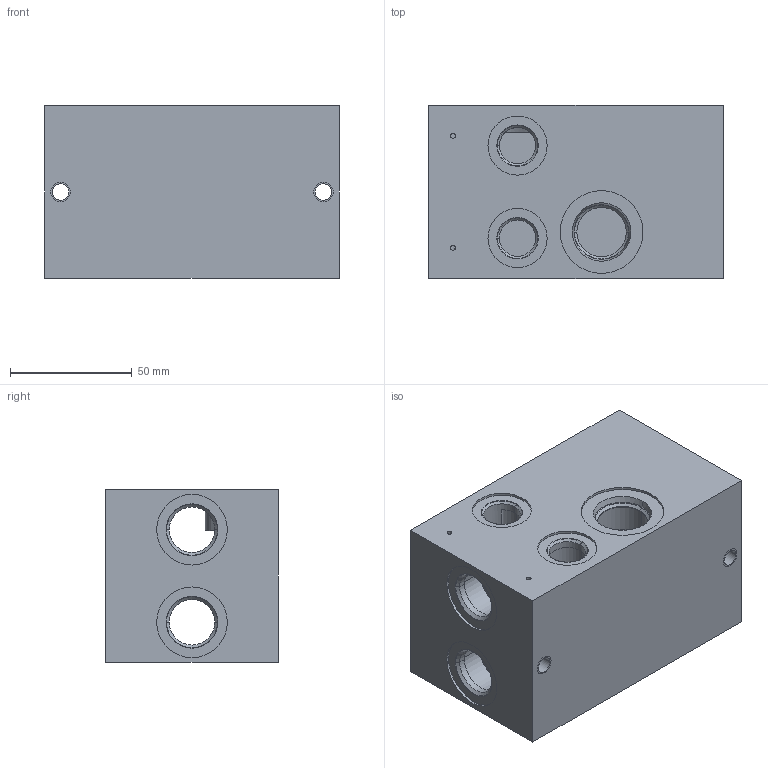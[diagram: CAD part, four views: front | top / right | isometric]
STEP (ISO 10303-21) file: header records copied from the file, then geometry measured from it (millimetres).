
FILE_DESCRIPTION((''),'2;1');
FILE_NAME('27563500','2015-11-27T',('Ahcz.brigadnik05'),(''),'PRO/ENGINEER BY PARAMETRIC TECHNOLOGY CORPORATION, 2015110','PRO/ENGINEER BY PARAMETRIC TECHNOLOGY CORPORATION, 2015110','');
FILE_SCHEMA(('AUTOMOTIVE_DESIGN { 1 0 10303 214 1 1 1 1 }'));
Length unit declared in the file: millimetre
Products named in the file (1): 27563500
Bounding box: 121 x 71 x 71 mm (x, y, z)
Volume: 216435 mm3; surface area: 87881.6 mm2
Topology: 1 solids, 19 shells, 173 faces, 611 edges, 541 vertices
Faces by surface type: cylinder 106, plane 42, cone 25
Entity records: 8936 total; most frequent: CARTESIAN_POINT 1481, DIRECTION 1204, ORIENTED_EDGE 856, PRESENTATION_STYLE_ASSIGNMENT 649, STYLED_ITEM 649, CURVE_STYLE 624, EDGE_CURVE 464, AXIS2_PLACEMENT_3D 444
